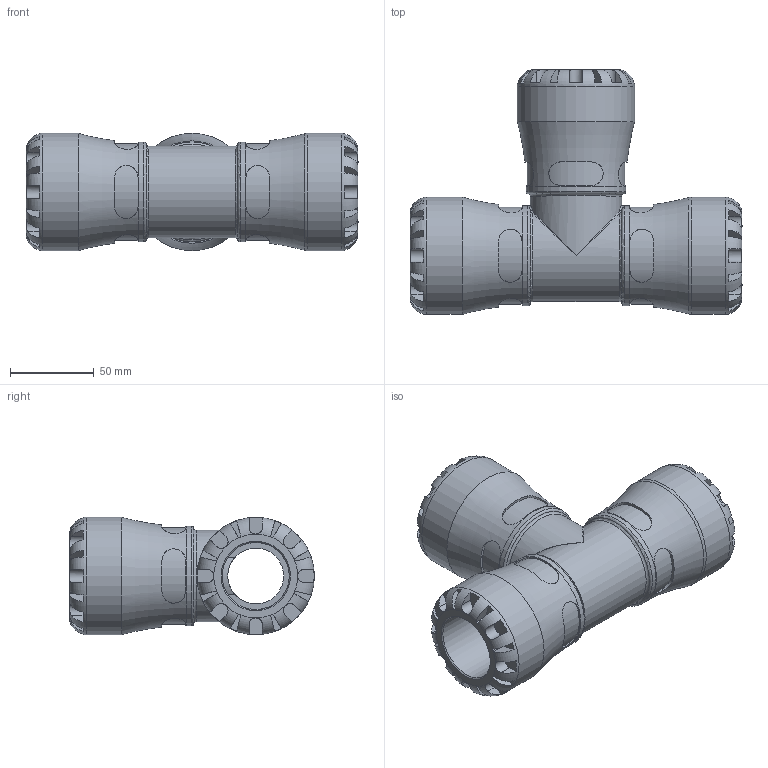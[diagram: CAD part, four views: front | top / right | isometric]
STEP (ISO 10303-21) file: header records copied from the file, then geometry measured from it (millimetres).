
FILE_DESCRIPTION(/* description */ ('PLASSON G-PLASS TEE 40X40X40'),/* implementation_level */ '2;1');
FILE_NAME(/* name */ 'C:\Dropbox\KIMPROJECTS-Inventor 2019\99-16-3568-Processing\S1\150400\stp\150400040.stp',/* time_stamp */ '2023-10-17T19:23:43+03:00',/* author */ ('KIM'),/* organization */ (''),/* preprocessor_version */ 'ST-DEVELOPER v17.2',/* originating_system */ 'Autodesk Inventor 2019',/* authorisation */ '');
FILE_SCHEMA (('AUTOMOTIVE_DESIGN { 1 0 10303 214 3 1 1 }'));
Length unit declared in the file: millimetre
Products named in the file (1): 150400040
Bounding box: 198 x 146 x 70 mm (x, y, z)
Volume: 527421.9 mm3; surface area: 102988.7 mm2
Topology: 1 solids, 1 shells, 298 faces, 795 edges, 505 vertices
Faces by surface type: plane 174, cylinder 99, torus 13, bspline 10, cone 2
Full cylindrical faces by diameter (mm): 33.333 x2, 40 x3, 54.6 x1, 59.5 x3, 70 x3
Entity records: 12670 total; most frequent: CARTESIAN_POINT 5172, ORIENTED_EDGE 1582, DIRECTION 1484, EDGE_CURVE 791, AXIS2_PLACEMENT_3D 613, VERTEX_POINT 505, CIRCLE 313, EDGE_LOOP 312
